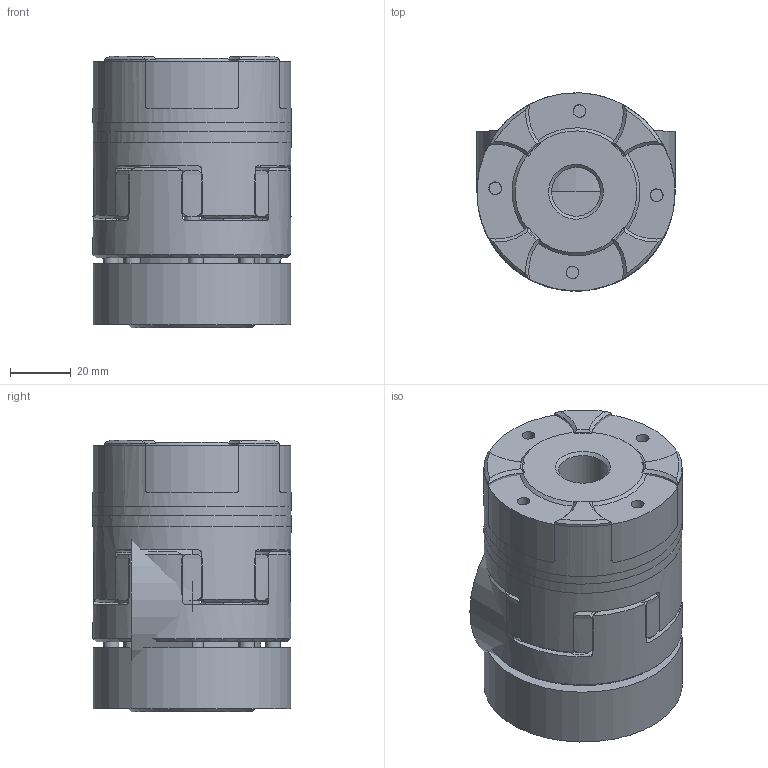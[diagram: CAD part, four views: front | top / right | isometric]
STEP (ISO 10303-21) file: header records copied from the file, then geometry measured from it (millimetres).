
FILE_DESCRIPTION( ( 'Unknown' ), '1' );
FILE_NAME( 'C:/Dokumente und Einstellungen/Sven/Desktop/homepage/cad - homepage/KBE3/KBE3 - 28.stp', 'Unknown', ( 'Unknown' ), ( 'Unknown' ), 'XStep 1.0', 'Unknown', ' ' );
FILE_SCHEMA( ( 'automotive_design' ) );
Length unit declared in the file: millimetre
Products named in the file (5): Assem1; Zahnkranz EK28_Standard; KBE 3 - 28_Nabe; KBE3-28_Klemmring; ISO EN DIN 4762 M5x25
Bounding box: 65 x 65 x 89.2 mm (x, y, z)
Volume: 366188 mm3; surface area: 126963.9 mm2
Topology: 25 solids, 25 shells, 810 faces, 1792 edges, 1113 vertices
Faces by surface type: plane 257, cone 251, cylinder 241, torus 61
Full cylindrical faces by diameter (mm): 4.2 x36, 5 x33, 5.5 x24, 8.5 x17, 9.5 x24, 16 x3, 30 x4, 39 x3, 45 x3, 65 x6
Entity records: 6306 total; most frequent: CARTESIAN_POINT 1425, DIRECTION 1022, ORIENTED_EDGE 840, AXIS2_PLACEMENT_3D 481, EDGE_CURVE 420, EDGE_LOOP 322, VERTEX_POINT 304, CIRCLE 258
